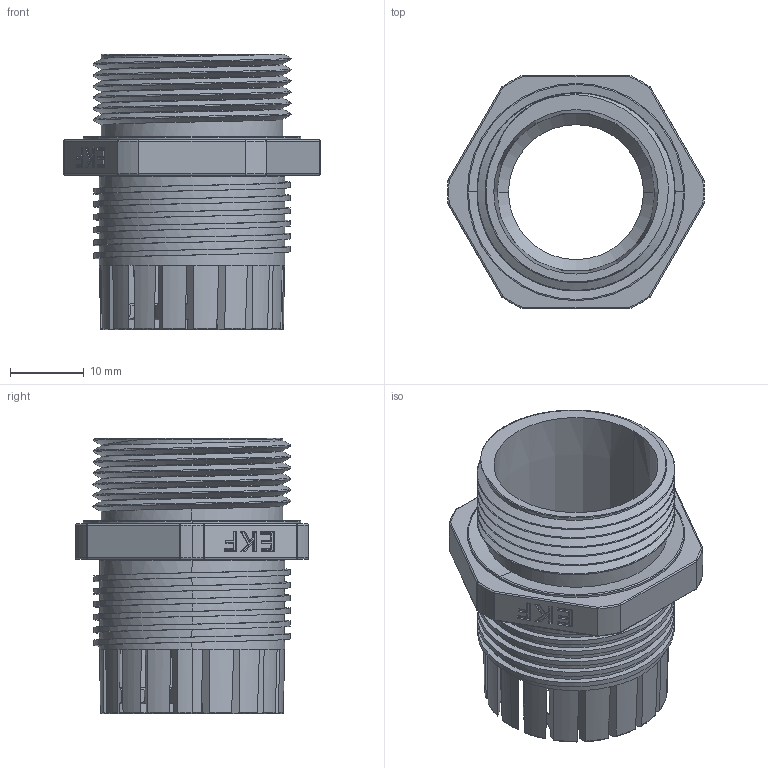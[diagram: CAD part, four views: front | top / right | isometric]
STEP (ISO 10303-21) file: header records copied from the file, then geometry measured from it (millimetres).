
FILE_DESCRIPTION (( 'STEP AP214' ), '1' );
FILE_NAME ('plc-pg-21-00.00.001 昢膼瘔 (PG21) #base (PG21)#.STEP', '2024-04-24T08:58:18', ( '' ), ( '' ), 'SwSTEP 2.0', 'SolidWorks 2021', '' );
FILE_SCHEMA (( 'AUTOMOTIVE_DESIGN' ));
Length unit declared in the file: millimetre
Products named in the file (1): plc-pg-21-00.00.001 昢膼瘔 (PG21) #base (PG21)#
Bounding box: 34.8 x 31.62 x 37.23 mm (x, y, z)
Volume: 6462.9 mm3; surface area: 8476.6 mm2
Topology: 1 solids, 1 shells, 445 faces, 1174 edges, 732 vertices
Faces by surface type: cylinder 135, plane 91, cone 88, torus 59, bspline 48, sphere 24
Entity records: 22645 total; most frequent: CARTESIAN_POINT 11696, ORIENTED_EDGE 2332, DIRECTION 1803, EDGE_CURVE 1166, AXIS2_PLACEMENT_3D 757, VERTEX_POINT 732, EDGE_LOOP 458, ADVANCED_FACE 445
